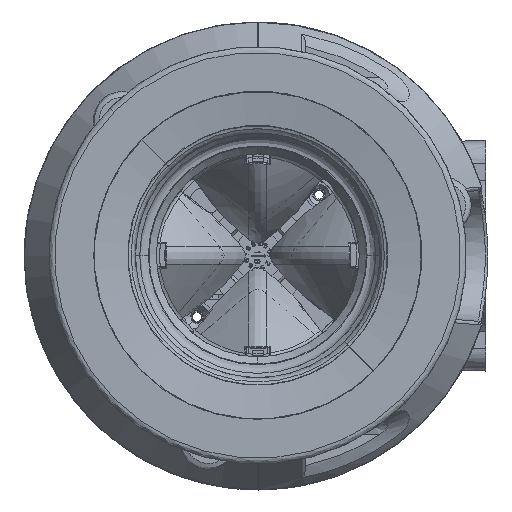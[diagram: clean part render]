
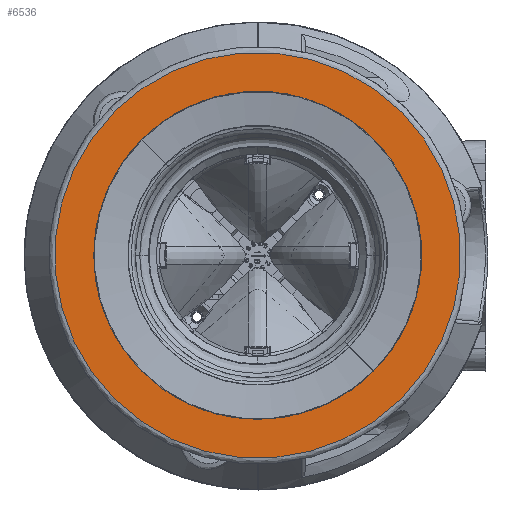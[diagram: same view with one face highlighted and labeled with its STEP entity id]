
A CAD part, top view. The second image highlights one B-rep face of the part: STEP entity #6536.
In plain terms, the highlighted planar face has unit normal (0, 0, 1) as drawn and (0, 1, 0) by its records, which use the part's own axes.
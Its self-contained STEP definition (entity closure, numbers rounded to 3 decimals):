
#494=TRIMMED_CURVE($,#1298,(#120068),(#120069),.T.,.CARTESIAN.);
#495=TRIMMED_CURVE($,#1299,(#120071),(#120072),.T.,.CARTESIAN.);
#499=TRIMMED_CURVE($,#1303,(#120083),(#120084),.T.,.CARTESIAN.);
#500=TRIMMED_CURVE($,#1304,(#120086),(#120087),.T.,.CARTESIAN.);
#527=TRIMMED_CURVE($,#1331,(#120183),(#120184),.T.,.CARTESIAN.);
#528=TRIMMED_CURVE($,#1332,(#120186),(#120187),.T.,.CARTESIAN.);
#531=TRIMMED_CURVE($,#1335,(#120195),(#120196),.T.,.CARTESIAN.);
#532=TRIMMED_CURVE($,#1336,(#120198),(#120199),.T.,.CARTESIAN.);
#1298=CIRCLE('',#59524,46.);
#1299=CIRCLE('',#59525,46.);
#1303=CIRCLE('',#59529,46.);
#1304=CIRCLE('',#59530,46.);
#1331=CIRCLE('',#59557,70.5);
#1332=CIRCLE('',#59558,70.5);
#1335=CIRCLE('',#59561,70.5);
#1336=CIRCLE('',#59562,70.5);
#3873=FACE_BOUND('',#13262,.T.);
#6536=ADVANCED_FACE('',(#9821,#3873),#56011,.T.);
#9821=FACE_OUTER_BOUND('',#13261,.T.);
#13261=EDGE_LOOP('',(#28161,#28162,#28163,#28164));
#13262=EDGE_LOOP('',(#28165,#28166,#28167,#28168));
#28161=ORIENTED_EDGE('',*,*,#39040,.F.);
#28162=ORIENTED_EDGE('',*,*,#39041,.F.);
#28163=ORIENTED_EDGE('',*,*,#39036,.F.);
#28164=ORIENTED_EDGE('',*,*,#39037,.F.);
#28165=ORIENTED_EDGE('',*,*,#38996,.F.);
#28166=ORIENTED_EDGE('',*,*,#39000,.F.);
#28167=ORIENTED_EDGE('',*,*,#39001,.F.);
#28168=ORIENTED_EDGE('',*,*,#38995,.F.);
#38995=EDGE_CURVE('',#52880,#52879,#494,.T.);
#38996=EDGE_CURVE('',#52881,#52880,#495,.T.);
#39000=EDGE_CURVE('',#52883,#52881,#499,.T.);
#39001=EDGE_CURVE('',#52879,#52883,#500,.T.);
#39036=EDGE_CURVE('',#52907,#52908,#527,.T.);
#39037=EDGE_CURVE('',#52909,#52907,#528,.T.);
#39040=EDGE_CURVE('',#52910,#52909,#531,.T.);
#39041=EDGE_CURVE('',#52908,#52910,#532,.T.);
#52879=VERTEX_POINT('',#120018);
#52880=VERTEX_POINT('',#120019);
#52881=VERTEX_POINT('',#120020);
#52883=VERTEX_POINT('',#120022);
#52907=VERTEX_POINT('',#120046);
#52908=VERTEX_POINT('',#120047);
#52909=VERTEX_POINT('',#120048);
#52910=VERTEX_POINT('',#120049);
#56011=PLANE('',#59517);
#59517=AXIS2_PLACEMENT_3D('',#119929,#63150,$);
#59524=AXIS2_PLACEMENT_3D($,#120067,#63161,#63162);
#59525=AXIS2_PLACEMENT_3D($,#120070,#63163,#63164);
#59529=AXIS2_PLACEMENT_3D($,#120082,#63171,#63172);
#59530=AXIS2_PLACEMENT_3D($,#120085,#63173,#63174);
#59557=AXIS2_PLACEMENT_3D($,#120182,#63227,#63228);
#59558=AXIS2_PLACEMENT_3D($,#120185,#63229,#63230);
#59561=AXIS2_PLACEMENT_3D($,#120194,#63235,#63236);
#59562=AXIS2_PLACEMENT_3D($,#120197,#63237,#63238);
#63150=DIRECTION('',(0.,1.,0.));
#63161=DIRECTION('',(0.,1.,0.));
#63162=DIRECTION('',(1.,0.,0.007));
#63163=DIRECTION('',(0.,1.,0.));
#63164=DIRECTION('',(-1.,0.,0.));
#63171=DIRECTION('',(0.,1.,0.));
#63172=DIRECTION('',(-1.,0.,-0.007));
#63173=DIRECTION('',(0.,1.,0.));
#63174=DIRECTION('',(1.,0.,0.));
#63227=DIRECTION('',(0.,-1.,0.));
#63228=DIRECTION('',(-1.,0.,-0.006));
#63229=DIRECTION('',(0.,-1.,0.));
#63230=DIRECTION('',(-1.,0.,0.));
#63235=DIRECTION('',(0.,-1.,0.));
#63236=DIRECTION('',(1.,0.,0.006));
#63237=DIRECTION('',(0.,-1.,0.));
#63238=DIRECTION('',(1.,0.,0.));
#119929=CARTESIAN_POINT('',(84.846,8.,85.107));
#120018=CARTESIAN_POINT('',(46.,8.,0.));
#120019=CARTESIAN_POINT('',(45.999,8.,0.308));
#120020=CARTESIAN_POINT('',(-46.,8.,0.));
#120022=CARTESIAN_POINT('',(-45.999,8.,-0.308));
#120046=CARTESIAN_POINT('',(-70.499,8.,-0.436));
#120047=CARTESIAN_POINT('',(70.5,8.,0.));
#120048=CARTESIAN_POINT('',(-70.5,8.,0.));
#120049=CARTESIAN_POINT('',(70.499,8.,0.436));
#120067=CARTESIAN_POINT('',(0.,8.,0.));
#120068=CARTESIAN_POINT('',(45.999,8.,0.308));
#120069=CARTESIAN_POINT('',(46.,8.,0.));
#120070=CARTESIAN_POINT('',(0.,8.,0.));
#120071=CARTESIAN_POINT('',(-46.,8.,0.));
#120072=CARTESIAN_POINT('',(45.999,8.,0.308));
#120082=CARTESIAN_POINT('',(0.,8.,0.));
#120083=CARTESIAN_POINT('',(-45.999,8.,-0.308));
#120084=CARTESIAN_POINT('',(-46.,8.,0.));
#120085=CARTESIAN_POINT('',(0.,8.,0.));
#120086=CARTESIAN_POINT('',(46.,8.,0.));
#120087=CARTESIAN_POINT('',(-45.999,8.,-0.308));
#120182=CARTESIAN_POINT('',(0.,8.,0.));
#120183=CARTESIAN_POINT('',(-70.499,8.,-0.436));
#120184=CARTESIAN_POINT('',(70.5,8.,0.));
#120185=CARTESIAN_POINT('',(0.,8.,0.));
#120186=CARTESIAN_POINT('',(-70.5,8.,0.));
#120187=CARTESIAN_POINT('',(-70.499,8.,-0.436));
#120194=CARTESIAN_POINT('',(0.,8.,0.));
#120195=CARTESIAN_POINT('',(70.499,8.,0.436));
#120196=CARTESIAN_POINT('',(-70.5,8.,0.));
#120197=CARTESIAN_POINT('',(0.,8.,0.));
#120198=CARTESIAN_POINT('',(70.5,8.,0.));
#120199=CARTESIAN_POINT('',(70.499,8.,0.436));
